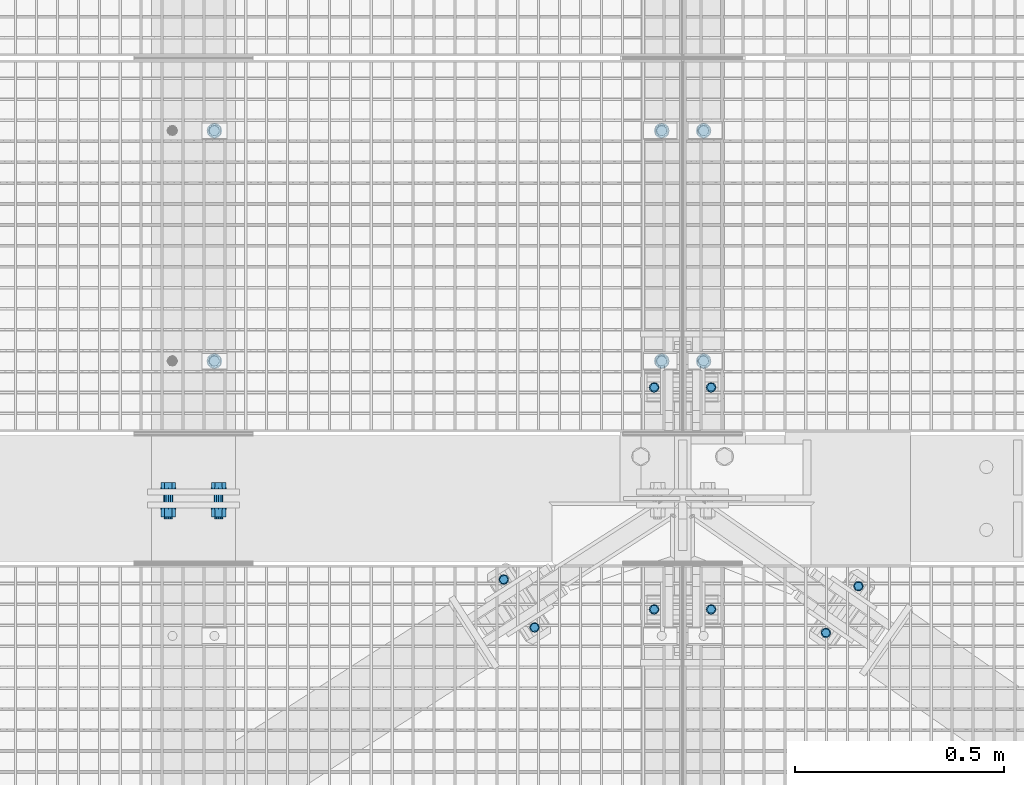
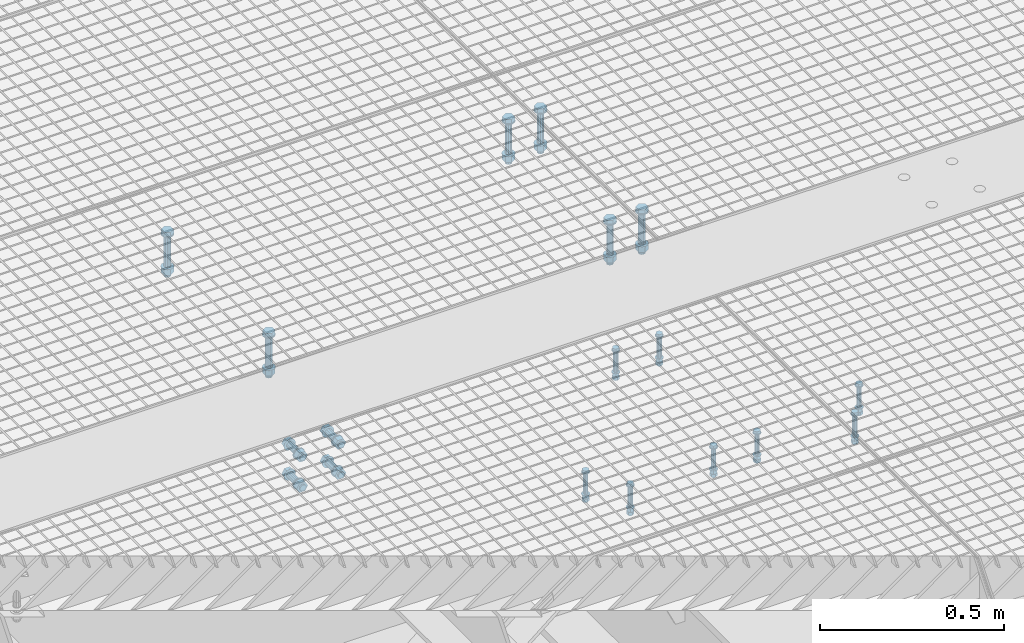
# One storey, part 27 of 1530: 8 mechanical fasteners.
"""IFC2X3 building model written with IfcOpenShell, lengths in millimetres."""

import ifcopenshell
import ifcopenshell.guid

model = None  # the IFC model being written
_history = None  # IfcOwnerHistory: only IFC2X3 demands one
_inside = {}  # id of a spatial element -> (the spatial element, [elements in it])
_under = {}  # id of a project, library or spatial element -> (it, [spatial elements below it])
_declared = {}  # id of a project -> (the project, [libraries it declares])
_typed = {}  # id of a type object -> (the type object, [elements of that type])
_made_of = {}  # id of a material, layer set ... -> (it, [elements and type objects made of it])


def new_model(schema):
    """Start an empty IFC model of exactly this schema.

    Asked for "IFC4X3", IfcOpenShell would pick the latest addendum, in which some entities
    have other attributes; the version numbers below select the first issue.
    IFC2X3 requires an IfcOwnerHistory on every rooted entity: one is made here for all.
    """
    global model, _history
    if schema == "IFC4X3":
        model = ifcopenshell.file(schema_version=(4, 3, 0, 0))
    else:
        model = ifcopenshell.file(schema=schema)
    _inside.clear()
    _under.clear()
    _declared.clear()
    _typed.clear()
    _made_of.clear()
    _history = None
    if model.schema == "IFC2X3":
        org = make("IfcOrganization", Name="unknown")
        user = make(
            "IfcPersonAndOrganization",
            ThePerson=make("IfcPerson", FamilyName="unknown"),
            TheOrganization=org,
        )
        app = make(
            "IfcApplication",
            ApplicationDeveloper=org,
            Version="unknown",
            ApplicationFullName="unknown",
            ApplicationIdentifier="unknown",
        )
        _history = make(
            "IfcOwnerHistory",
            OwningUser=user,
            OwningApplication=app,
            ChangeAction="ADDED",
            CreationDate=0,
        )
    return model


def make(cls, **values):
    """One entity of the class cls with the attributes given. An attribute that is None is left unset."""
    return model.create_entity(
        cls, **{name: value for name, value in values.items() if value is not None}
    )


def rooted(cls, **values):
    """An entity with a GlobalId (a new one), such as an element, a storey or a relation."""
    return make(cls, GlobalId=ifcopenshell.guid.new(), OwnerHistory=_history, **values)


def si_unit(unit_type, name, prefix=None):
    """IfcSIUnit, for example si_unit("LENGTHUNIT", "METRE", prefix="MILLI")."""
    return make("IfcSIUnit", UnitType=unit_type, Prefix=prefix, Name=name)


def assignment(units):
    """IfcUnitAssignment: the units of a project."""
    return None if units is None else make("IfcUnitAssignment", Units=units)


def point(xyz):
    """IfcCartesianPoint."""
    return None if xyz is None else make("IfcCartesianPoint", Coordinates=xyz)


def direction(xyz):
    """IfcDirection."""
    return None if xyz is None else make("IfcDirection", DirectionRatios=xyz)


def frame(location, z_axis=None, x_axis=None):
    """IfcAxis2Placement3D, a coordinate frame: its origin and axes. An axis left out is left unset."""
    return make(
        "IfcAxis2Placement3D",
        Location=point(location),
        Axis=direction(z_axis),
        RefDirection=direction(x_axis),
    )


def origin_with_axes():
    """The frame at (0, 0, 0) with the z axis (0, 0, 1) and the x axis (1, 0, 0) written out."""
    return frame((0.0, 0.0, 0.0), z_axis=(0.0, 0.0, 1.0), x_axis=(1.0, 0.0, 0.0))


def place(relative_to, where):
    """IfcLocalPlacement: puts the frame where relative to a parent placement (None: the world)."""
    return make(
        "IfcLocalPlacement", PlacementRelTo=relative_to, RelativePlacement=where
    )


def context(
    kind, dimensions, precision=None, world=None, true_north=None, identifier=None
):
    """IfcGeometricRepresentationContext, for example the 3D "Model" context."""
    return make(
        "IfcGeometricRepresentationContext",
        ContextIdentifier=identifier,
        ContextType=kind,
        CoordinateSpaceDimension=dimensions,
        Precision=precision,
        WorldCoordinateSystem=world,
        TrueNorth=true_north,
    )


def subcontext(parent, identifier, kind, view, scale=None):
    """IfcGeometricRepresentationSubContext, for example "Body" below "Model"."""
    return make(
        "IfcGeometricRepresentationSubContext",
        ContextIdentifier=identifier,
        ContextType=kind,
        ParentContext=parent,
        TargetScale=scale,
        TargetView=view,
    )


def project(units=None, contexts=None):
    """IfcProject with its units and contexts."""
    return rooted(
        "IfcProject",
        Name="project",
        RepresentationContexts=contexts,
        UnitsInContext=assignment(units),
    )


def spatial(cls, under=None, at=None, **own):
    """A site, building, storey or space (cls), placed at a placement, below another one or the project."""
    s = rooted(cls, ObjectPlacement=at, **own)
    if under is not None:
        _under.setdefault(under.id(), (under, []))[1].append(s)
    return s


def faces_of(points, faces, orient=None, outer=None):
    """IfcFace entities. A face is a list of loops; a loop is a list of indices into points, from 0.

    orient and outer hold one flag for each loop. By default every Orientation is true, the
    first loop of a face is its IfcFaceOuterBound and the others are IfcFaceBound.
    """
    made = []
    for i, loops in enumerate(faces):
        bounds = []
        for j, loop in enumerate(loops):
            is_outer = j == 0 if outer is None else outer[i][j]
            bounds.append(
                make(
                    "IfcFaceOuterBound" if is_outer else "IfcFaceBound",
                    Bound=make("IfcPolyLoop", Polygon=[points[k] for k in loop]),
                    Orientation=True if orient is None else orient[i][j],
                )
            )
        made.append(make("IfcFace", Bounds=bounds))
    return made


def faceted_brep(points, faces, orient=None, outer=None, voids=None):
    """IfcFacetedBrep: a solid bounded by flat faces; with voids (closed shells), ...WithVoids."""
    shared = [point(p) for p in points]
    hull = make("IfcClosedShell", CfsFaces=faces_of(shared, faces, orient, outer))
    if voids is None:
        return make("IfcFacetedBrep", Outer=hull)
    return make(
        "IfcFacetedBrepWithVoids",
        Outer=hull,
        Voids=[
            make(cls, CfsFaces=faces_of(shared, fs, o, b)) for cls, fs, o, b in voids
        ],
    )


def shape(context_of_items, identifier, shape_type, items):
    """IfcShapeRepresentation: the items that make up one representation, for example the "Body"."""
    return make(
        "IfcShapeRepresentation",
        ContextOfItems=context_of_items,
        RepresentationIdentifier=identifier,
        RepresentationType=shape_type,
        Items=items,
    )


def source(mapping_origin, context_of_items, identifier, shape_type, items):
    """IfcRepresentationMap: a shape defined once, which mapped items show again and again."""
    return make(
        "IfcRepresentationMap",
        MappingOrigin=mapping_origin,
        MappedRepresentation=shape(context_of_items, identifier, shape_type, items),
    )


def transform(
    local_origin,
    x_axis=None,
    y_axis=None,
    z_axis=None,
    scale=None,
    scale2=None,
    scale3=None,
    uniform=True,
):
    """IfcCartesianTransformationOperator3D, or its non-uniform kind. x_axis, y_axis, z_axis: its Axis1, 2, 3."""
    if uniform:
        return make(
            "IfcCartesianTransformationOperator3D",
            Axis1=direction(x_axis),
            Axis2=direction(y_axis),
            LocalOrigin=point(local_origin),
            Scale=scale,
            Axis3=direction(z_axis),
        )
    return make(
        "IfcCartesianTransformationOperator3DnonUniform",
        Axis1=direction(x_axis),
        Axis2=direction(y_axis),
        LocalOrigin=point(local_origin),
        Scale=scale,
        Axis3=direction(z_axis),
        Scale2=scale2,
        Scale3=scale3,
    )


def mapped(mapping_source, mapping_target):
    """IfcMappedItem: shows the shape of a source again, moved by a transform."""
    return make(
        "IfcMappedItem", MappingSource=mapping_source, MappingTarget=mapping_target
    )


def material(Name=None, Category=None):
    """IfcMaterial."""
    return make("IfcMaterial", Name=Name, Category=Category)


def made_of(thing, what):
    """Note that an element or type object is made of a material, layer set ...; save() writes the relation."""
    if what is not None:
        _made_of.setdefault(what.id(), (what, []))[1].append(thing)
    return thing


def type_object(cls, material=None, **own):
    """A type object (cls), such as IfcWallType, which elements share."""
    return made_of(rooted(cls, **own), material)


def element(
    cls,
    number,
    at=None,
    inside=None,
    cuts=None,
    type_object=None,
    material=None,
    context=None,
    identifier="Body",
    shape_type=None,
    held_by="IfcProductDefinitionShape",
    body=None,
    shapes=None,
    **own,
):
    """One element of the class cls, such as IfcWall. Its Tag is "e" and its number.

    at: its placement. inside: the storey or other place that contains it. cuts: it is an
    opening in that element (IfcRelVoidsElement). A single representation is given by context,
    identifier, shape_type and body (its items); several are given by shapes. held_by: the class
    of the entity that holds the representations. save() writes the other relations.
    """
    e = rooted(cls, Tag="e%d" % number, ObjectPlacement=at, **own)
    if body is not None:
        shapes = [shape(context, identifier, shape_type, body)]
    if shapes is not None:
        e.Representation = make(held_by, Representations=shapes)
    if inside is not None:
        _inside.setdefault(inside.id(), (inside, []))[1].append(e)
    if cuts is not None:
        rooted(
            "IfcRelVoidsElement", RelatingBuildingElement=cuts, RelatedOpeningElement=e
        )
    if type_object is not None:
        _typed.setdefault(type_object.id(), (type_object, []))[1].append(e)
    return made_of(e, material)


def aggregate(whole, parts):
    """IfcRelAggregates: a whole, such as a stair, and the parts it consists of."""
    return rooted("IfcRelAggregates", RelatingObject=whole, RelatedObjects=parts)


def save(model, path):
    """Write the relations noted so far, then the file.

    IfcRelAggregates (storeys below a building ...), IfcRelContainedInSpatialStructure (elements
    in a storey), IfcRelDefinesByType, IfcRelAssociatesMaterial and IfcRelDeclares: one each for
    every whole, place, type object, material and project.
    """
    for whole, parts in _under.values():
        aggregate(whole, parts)
    for where, things in _inside.values():
        rooted(
            "IfcRelContainedInSpatialStructure",
            RelatedElements=things,
            RelatingStructure=where,
        )
    for kind, things in _typed.values():
        rooted("IfcRelDefinesByType", RelatedObjects=things, RelatingType=kind)
    for what, things in _made_of.values():
        rooted("IfcRelAssociatesMaterial", RelatedObjects=things, RelatingMaterial=what)
    for by, libraries in _declared.values():
        rooted("IfcRelDeclares", RelatingContext=by, RelatedDefinitions=libraries)
    model.write(path)


model = new_model("IFC2X3")

# Units and contexts
model_context = context("Model", 3, precision=1e-05, world=origin_with_axes())
body_context = subcontext(model_context, "Body", "Model", "MODEL_VIEW")
ifc_project = project(units=[si_unit("LENGTHUNIT", "METRE", prefix="MILLI"), si_unit("AREAUNIT", "SQUARE_METRE"), si_unit("VOLUMEUNIT", "CUBIC_METRE"), si_unit("MASSUNIT", "GRAM", prefix="KILO"), si_unit("TIMEUNIT", "SECOND"), si_unit("PLANEANGLEUNIT", "RADIAN"), si_unit("SOLIDANGLEUNIT", "STERADIAN"), si_unit("THERMODYNAMICTEMPERATUREUNIT", "DEGREE_CELSIUS"), si_unit("LUMINOUSINTENSITYUNIT", "LUMEN")], contexts=[model_context])

# Site, building, storey
site_placement = place(None, origin_with_axes())
site = spatial("IfcSite", under=ifc_project, at=site_placement, Name="Brattvåg", CompositionType="ELEMENT")
building_placement = place(site_placement, origin_with_axes())
building = spatial("IfcBuilding", under=site, at=building_placement, Name="Undefined", CompositionType="ELEMENT")
storey_placement = place(building_placement, origin_with_axes())
storey = spatial("IfcBuildingStorey", under=building, at=storey_placement, Name="Undefined", CompositionType="ELEMENT", Elevation=0.0)

# Mechanical fasteners
ifc_material = material(Name="8")
mechanical_fastener_type = type_object("IfcMechanicalFastenerType", Name="Bolt assembly")
shared_shape_1 = source(origin_with_axes(), body_context, "Body", "Brep", [
    faceted_brep([(10.3923048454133, -9.99999999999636, 0.0), (5.19615242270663, -9.99999999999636, 9.0), (-5.19615242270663, -9.99999999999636, 9.0), (-10.3923048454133, -9.99999999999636, 1.27269028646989e-15), (-5.19615242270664, -9.99999999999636, -9.0), (5.19615242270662, -9.99999999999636, -9.0), (5.19615242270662, -2.49999999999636, -9.0), (-5.19615242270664, -2.49999999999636, -9.0), (-10.3923048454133, -2.49999999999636, 1.27269028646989e-15), (-5.19615242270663, -2.49999999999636, 9.0), (5.19615242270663, -2.49999999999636, 9.0), (10.3923048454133, -2.49999999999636, 0.0), (6.0, -2.49999999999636, 0.0), (5.19615242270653, -2.49999999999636, 3.00000000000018), (2.99999999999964, -2.49999999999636, 5.19615242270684), (-6.21801588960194e-13, -2.49999999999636, 6.0), (-3.00000000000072, -2.49999999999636, 5.19615242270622), (-5.19615242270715, -2.49999999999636, 2.9999999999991), (-6.0, -2.49999999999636, -1.24360317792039e-12), (-5.19615242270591, -2.49999999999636, -3.00000000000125), (-2.99999999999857, -2.49999999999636, -5.19615242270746), (1.85874342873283e-12, -2.49999999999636, -6.0), (3.00000000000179, -2.49999999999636, -5.1961524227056), (5.19615242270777, -2.49999999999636, -2.99999999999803), (5.19615242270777, 97.4999999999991, -2.99999999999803), (3.00000000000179, 97.4999999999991, -5.1961524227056), (1.85874342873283e-12, 97.4999999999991, -6.0), (-2.99999999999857, 97.4999999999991, -5.19615242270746), (-5.19615242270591, 97.4999999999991, -3.00000000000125), (-6.0, 97.4999999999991, -1.24360317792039e-12), (-5.19615242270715, 97.4999999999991, 2.9999999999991), (-3.00000000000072, 97.4999999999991, 5.19615242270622), (-6.21801588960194e-13, 97.4999999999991, 6.0), (2.99999999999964, 97.4999999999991, 5.19615242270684), (5.19615242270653, 97.4999999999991, 3.00000000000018), (6.0, 97.4999999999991, 0.0), (12.0, -2.49999999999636, 0.0), (10.3923048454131, -2.49999999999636, 6.00000000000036), (5.99999999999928, -2.49999999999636, 10.3923048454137), (-1.24360317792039e-12, -2.49999999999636, 12.0), (-6.00000000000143, -2.49999999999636, 10.3923048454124), (-10.3923048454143, -2.49999999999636, 5.99999999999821), (-12.0, -2.49999999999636, -2.48720635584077e-12), (-10.3923048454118, -2.49999999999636, -6.00000000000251), (-5.99999999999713, -2.49999999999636, -10.3923048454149), (3.71748685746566e-12, -2.49999999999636, -12.0), (6.00000000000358, -2.49999999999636, -10.3923048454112), (10.3923048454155, -2.49999999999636, -5.99999999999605), (10.3923048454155, 3.63797880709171e-12, -5.99999999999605), (6.00000000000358, 3.63797880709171e-12, -10.3923048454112), (3.71748685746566e-12, 3.63797880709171e-12, -12.0), (-5.99999999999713, 3.63797880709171e-12, -10.3923048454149), (-10.3923048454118, 3.63797880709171e-12, -6.00000000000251), (-12.0, 3.63797880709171e-12, -2.48720635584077e-12), (-10.3923048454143, 3.63797880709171e-12, 5.99999999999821), (-6.00000000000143, 3.63797880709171e-12, 10.3923048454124), (-1.24360317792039e-12, 3.63797880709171e-12, 12.0), (5.99999999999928, 3.63797880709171e-12, 10.3923048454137), (10.3923048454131, 3.63797880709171e-12, 6.00000000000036), (12.0, 3.63797880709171e-12, 0.0), (12.0, 69.9999999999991, 0.0), (10.3923048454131, 69.9999999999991, 6.00000000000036), (5.99999999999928, 69.9999999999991, 10.3923048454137), (-1.24360317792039e-12, 69.9999999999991, 12.0), (-6.00000000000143, 69.9999999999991, 10.3923048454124), (-10.3923048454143, 69.9999999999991, 5.99999999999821), (-12.0, 69.9999999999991, -2.48720635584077e-12), (-10.3923048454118, 69.9999999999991, -6.00000000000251), (-5.99999999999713, 69.9999999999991, -10.3923048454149), (3.71748685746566e-12, 69.9999999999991, -12.0), (6.00000000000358, 69.9999999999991, -10.3923048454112), (10.3923048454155, 69.9999999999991, -5.99999999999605), (10.3923048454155, 72.4999999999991, -5.99999999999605), (6.00000000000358, 72.4999999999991, -10.3923048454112), (3.71748685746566e-12, 72.4999999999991, -12.0), (-5.99999999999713, 72.4999999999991, -10.3923048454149), (-10.3923048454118, 72.4999999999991, -6.00000000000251), (-12.0, 72.4999999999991, -2.48720635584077e-12), (-10.3923048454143, 72.4999999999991, 5.99999999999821), (-6.00000000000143, 72.4999999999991, 10.3923048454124), (-1.24360317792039e-12, 72.4999999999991, 12.0), (5.99999999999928, 72.4999999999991, 10.3923048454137), (10.3923048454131, 72.4999999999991, 6.00000000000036), (12.0, 72.4999999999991, 0.0), (10.3923048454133, 72.4999999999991, 0.0), (5.19615242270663, 72.4999999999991, 9.0), (-5.19615242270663, 72.4999999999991, 9.0), (-10.3923048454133, 72.4999999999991, 1.27269028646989e-15), (-5.19615242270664, 72.4999999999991, -9.0), (5.19615242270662, 72.4999999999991, -9.0), (5.19615242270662, 83.300000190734, -9.0), (-5.19615242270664, 83.300000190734, -9.0), (-10.3923048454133, 83.300000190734, 1.27269028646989e-15), (-5.19615242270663, 83.300000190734, 9.0), (5.19615242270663, 83.300000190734, 9.0), (10.3923048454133, 83.300000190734, 0.0), (9.0, 83.300000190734, 5.19615242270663), (6.36345143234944e-16, 83.300000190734, 10.3923048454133), (-9.0, 83.300000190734, 5.19615242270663), (-9.0, 83.300000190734, -5.19615242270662), (-1.11392563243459e-14, 83.300000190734, -10.3923048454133), (8.99999999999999, 83.300000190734, -5.19615242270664), (8.99999999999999, 94.1000003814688, -5.19615242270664), (-1.11392563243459e-14, 94.1000003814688, -10.3923048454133), (-9.0, 94.1000003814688, -5.19615242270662), (-9.0, 94.1000003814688, 5.19615242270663), (6.36345143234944e-16, 94.1000003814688, 10.3923048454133), (9.0, 94.1000003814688, 5.19615242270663)], [[[0, 1, 2, 3, 4, 5]], [[6, 7, 8, 9, 10, 11]], [[0, 11, 10, 1]], [[1, 10, 9, 2]], [[2, 9, 8, 3]], [[3, 8, 7, 4]], [[4, 7, 6, 5]], [[5, 6, 11, 0]], [[12, 13, 14, 15, 16, 17, 18, 19, 20, 21, 22, 23]], [[24, 25, 26, 27, 28, 29, 30, 31, 32, 33, 34, 35]], [[12, 35, 34, 13]], [[13, 34, 33, 14]], [[14, 33, 32, 15]], [[15, 32, 31, 16]], [[16, 31, 30, 17]], [[17, 30, 29, 18]], [[18, 29, 28, 19]], [[19, 28, 27, 20]], [[20, 27, 26, 21]], [[21, 26, 25, 22]], [[22, 25, 24, 23]], [[23, 24, 35, 12]], [[36, 37, 38, 39, 40, 41, 42, 43, 44, 45, 46, 47]], [[48, 49, 50, 51, 52, 53, 54, 55, 56, 57, 58, 59]], [[36, 59, 58, 37]], [[37, 58, 57, 38]], [[38, 57, 56, 39]], [[39, 56, 55, 40]], [[40, 55, 54, 41]], [[41, 54, 53, 42]], [[42, 53, 52, 43]], [[43, 52, 51, 44]], [[44, 51, 50, 45]], [[45, 50, 49, 46]], [[46, 49, 48, 47]], [[47, 48, 59, 36]], [[60, 61, 62, 63, 64, 65, 66, 67, 68, 69, 70, 71]], [[72, 73, 74, 75, 76, 77, 78, 79, 80, 81, 82, 83]], [[60, 83, 82, 61]], [[61, 82, 81, 62]], [[62, 81, 80, 63]], [[63, 80, 79, 64]], [[64, 79, 78, 65]], [[65, 78, 77, 66]], [[66, 77, 76, 67]], [[67, 76, 75, 68]], [[68, 75, 74, 69]], [[69, 74, 73, 70]], [[70, 73, 72, 71]], [[71, 72, 83, 60]], [[84, 85, 86, 87, 88, 89]], [[90, 91, 92, 93, 94, 95]], [[84, 95, 94, 85]], [[85, 94, 93, 86]], [[86, 93, 92, 87]], [[87, 92, 91, 88]], [[88, 91, 90, 89]], [[89, 90, 95, 84]], [[96, 97, 98, 99, 100, 101]], [[102, 103, 104, 105, 106, 107]], [[96, 107, 106, 97]], [[97, 106, 105, 98]], [[98, 105, 104, 99]], [[99, 104, 103, 100]], [[100, 103, 102, 101]], [[101, 102, 107, 96]]]),
    faceted_brep([(7.0, -9.09494701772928e-13, 0.0), (6.06217782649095, -9.09494701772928e-13, 3.50000000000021), (3.49999999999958, -9.09494701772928e-13, 6.06217782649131), (-7.25435187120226e-13, -9.09494701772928e-13, 7.0), (-3.50000000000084, -9.09494701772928e-13, 6.06217782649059), (-6.06217782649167, -9.09494701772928e-13, 3.49999999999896), (-7.0, -9.09494701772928e-13, -1.45087037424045e-12), (-6.06217782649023, -9.09494701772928e-13, -3.50000000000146), (-3.49999999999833, -9.09494701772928e-13, -6.06217782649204), (2.1685340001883e-12, -9.09494701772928e-13, -7.0), (3.50000000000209, -9.09494701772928e-13, -6.06217782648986), (6.0621778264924, -9.09494701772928e-13, -3.4999999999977), (6.0621778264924, 70.0999999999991, -3.4999999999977), (3.50000000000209, 70.0999999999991, -6.06217782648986), (2.1685340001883e-12, 70.0999999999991, -7.0), (-3.49999999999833, 70.0999999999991, -6.06217782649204), (-6.06217782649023, 70.0999999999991, -3.50000000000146), (-7.0, 70.0999999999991, -1.45087037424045e-12), (-6.06217782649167, 70.0999999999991, 3.49999999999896), (-3.50000000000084, 70.0999999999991, 6.06217782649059), (-7.25435187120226e-13, 70.0999999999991, 7.0), (3.49999999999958, 70.0999999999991, 6.06217782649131), (6.06217782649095, 70.0999999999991, 3.50000000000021), (7.0, 70.0999999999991, 0.0)], [[[0, 1, 2, 3, 4, 5, 6, 7, 8, 9, 10, 11]], [[12, 13, 14, 15, 16, 17, 18, 19, 20, 21, 22, 23]], [[0, 23, 22, 1]], [[1, 22, 21, 2]], [[2, 21, 20, 3]], [[3, 20, 19, 4]], [[4, 19, 18, 5]], [[5, 18, 17, 6]], [[6, 17, 16, 7]], [[7, 16, 15, 8]], [[8, 15, 14, 9]], [[9, 14, 13, 10]], [[10, 13, 12, 11]], [[11, 12, 23, 0]]]),
])
for number, where, z_axis, x_axis, name in (
    (1, (11822.8252213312, 2806.50584660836, -410.000000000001), (0.841459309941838, 0.540320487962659, 0.0), (0.540320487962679, -0.841459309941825, 0.0), "Bolt assembly"),
    (2, (12181.9511285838, 2735.0, -410.000000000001), (0.0, 1.0, 0.0), (1.0, 0.0, 0.0), "Bolt assembly"),
    (3, (12317.9488714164, 3265.0, -410.000000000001), (0.0, -1.0, 0.0), (-1.0, 1.99999855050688e-09, 0.0), "Bolt assembly"),
    (4, (12591.9306926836, 2679.03955792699, -410.000000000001), (-0.820625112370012, 0.571466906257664, 0.0), (0.571466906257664, 0.820625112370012, 0.0), "Bolt assembly"),
):
    element("IfcMechanicalFastener", number, at=place(storey_placement, frame(where, z_axis=z_axis, x_axis=x_axis)), inside=storey, type_object=mechanical_fastener_type, material=ifc_material, Name=name, NominalDiameter=12.0, NominalLength=100.0, context=body_context, shape_type="MappedRepresentation", body=[
        mapped(shared_shape_1, transform((0.0, 0.0, 0.0))),
        mapped(shared_shape_1, transform((136.0, 0.0, 0.0))),
    ])
shared_shape_2 = source(origin_with_axes(), body_context, "Body", "Brep", [
    faceted_brep([(17.3205080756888, -10.5, 0.0), (8.66025403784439, -10.5, 15.0), (-8.66025403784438, -10.5, 15.0), (-17.3205080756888, -10.5, 2.12115047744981e-15), (-8.66025403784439, -10.5, -15.0), (8.66025403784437, -10.5, -15.0), (8.66025403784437, 2.0, -15.0), (-8.66025403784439, 2.0, -15.0), (-17.3205080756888, 2.0, 2.12115047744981e-15), (-8.66025403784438, 2.0, 15.0), (8.66025403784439, 2.0, 15.0), (17.3205080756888, 2.0, 0.0), (10.0, 2.0, 0.0), (8.66025403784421, 2.0, 5.0000000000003), (4.9999999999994, 2.0, 8.66025403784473), (-1.03633598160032e-12, 2.0, 10.0), (-5.00000000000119, 2.0, 8.6602540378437), (-8.66025403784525, 2.0, 4.99999999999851), (-10.0, 2.0, -2.07267196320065e-12), (-8.66025403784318, 2.0, -5.00000000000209), (-4.99999999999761, 2.0, -8.66025403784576), (3.09790571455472e-12, 2.0, -10.0), (5.00000000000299, 2.0, -8.66025403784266), (8.66025403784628, 2.0, -4.99999999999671), (8.66025403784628, 142.0, -4.99999999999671), (5.00000000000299, 142.0, -8.66025403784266), (3.09790571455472e-12, 142.0, -10.0), (-4.99999999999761, 142.0, -8.66025403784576), (-8.66025403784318, 142.0, -5.00000000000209), (-10.0, 142.0, -2.07267196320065e-12), (-8.66025403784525, 142.0, 4.99999999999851), (-5.00000000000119, 142.0, 8.6602540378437), (-1.03633598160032e-12, 142.0, 10.0), (4.9999999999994, 142.0, 8.66025403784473), (8.66025403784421, 142.0, 5.0000000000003), (10.0, 142.0, 0.0), (18.5, 2.0, 0.0), (16.0214699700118, 2.0, 9.25000000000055), (9.2499999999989, 2.0, 16.0214699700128), (-1.9172215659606e-12, 2.0, 18.5), (-9.25000000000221, 2.0, 16.0214699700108), (-16.0214699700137, 2.0, 9.24999999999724), (-18.5, 2.0, -3.83444313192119e-12), (-16.0214699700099, 2.0, -9.25000000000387), (-9.24999999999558, 2.0, -16.0214699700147), (5.73112557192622e-12, 2.0, -18.5), (9.25000000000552, 2.0, -16.0214699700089), (16.0214699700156, 2.0, -9.24999999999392), (16.0214699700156, 5.0, -9.24999999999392), (9.25000000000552, 5.0, -16.0214699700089), (5.73112557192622e-12, 5.0, -18.5), (-9.24999999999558, 5.0, -16.0214699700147), (-16.0214699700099, 5.0, -9.25000000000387), (-18.5, 5.0, -3.83444313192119e-12), (-16.0214699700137, 5.0, 9.24999999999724), (-9.25000000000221, 5.0, 16.0214699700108), (-1.9172215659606e-12, 5.0, 18.5), (9.2499999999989, 5.0, 16.0214699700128), (16.0214699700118, 5.0, 9.25000000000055), (18.5, 5.0, 0.0), (18.5, 109.998931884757, 0.0), (16.0214699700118, 109.998931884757, 9.25000000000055), (9.2499999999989, 109.998931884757, 16.0214699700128), (-1.9172215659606e-12, 109.998931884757, 18.5), (-9.25000000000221, 109.998931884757, 16.0214699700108), (-16.0214699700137, 109.998931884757, 9.24999999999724), (-18.5, 109.998931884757, -3.83444313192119e-12), (-16.0214699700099, 109.998931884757, -9.25000000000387), (-9.24999999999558, 109.998931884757, -16.0214699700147), (5.73112557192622e-12, 109.998931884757, -18.5), (9.25000000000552, 109.998931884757, -16.0214699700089), (16.0214699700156, 109.998931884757, -9.24999999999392), (16.0214699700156, 112.998931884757, -9.24999999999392), (9.25000000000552, 112.998931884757, -16.0214699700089), (5.73112557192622e-12, 112.998931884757, -18.5), (-9.24999999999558, 112.998931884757, -16.0214699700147), (-16.0214699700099, 112.998931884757, -9.25000000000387), (-18.5, 112.998931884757, -3.83444313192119e-12), (-16.0214699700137, 112.998931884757, 9.24999999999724), (-9.25000000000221, 112.998931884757, 16.0214699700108), (-1.9172215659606e-12, 112.998931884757, 18.5), (9.2499999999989, 112.998931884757, 16.0214699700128), (16.0214699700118, 112.998931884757, 9.25000000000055), (18.5, 112.998931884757, 0.0), (17.3205080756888, 112.998931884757, 0.0), (8.66025403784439, 112.998931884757, 15.0), (-8.66025403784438, 112.998931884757, 15.0), (-17.3205080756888, 112.998931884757, 2.12115047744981e-15), (-8.66025403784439, 112.998931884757, -15.0), (8.66025403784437, 112.998931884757, -15.0), (8.66025403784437, 130.998931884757, -15.0), (-8.66025403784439, 130.998931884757, -15.0), (-17.3205080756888, 130.998931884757, 2.12115047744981e-15), (-8.66025403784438, 130.998931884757, 15.0), (8.66025403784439, 130.998931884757, 15.0), (17.3205080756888, 130.998931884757, 0.0)], [[[0, 1, 2, 3, 4, 5]], [[6, 7, 8, 9, 10, 11]], [[0, 11, 10, 1]], [[1, 10, 9, 2]], [[2, 9, 8, 3]], [[3, 8, 7, 4]], [[4, 7, 6, 5]], [[5, 6, 11, 0]], [[12, 13, 14, 15, 16, 17, 18, 19, 20, 21, 22, 23]], [[24, 25, 26, 27, 28, 29, 30, 31, 32, 33, 34, 35]], [[12, 35, 34, 13]], [[13, 34, 33, 14]], [[14, 33, 32, 15]], [[15, 32, 31, 16]], [[16, 31, 30, 17]], [[17, 30, 29, 18]], [[18, 29, 28, 19]], [[19, 28, 27, 20]], [[20, 27, 26, 21]], [[21, 26, 25, 22]], [[22, 25, 24, 23]], [[23, 24, 35, 12]], [[36, 37, 38, 39, 40, 41, 42, 43, 44, 45, 46, 47]], [[48, 49, 50, 51, 52, 53, 54, 55, 56, 57, 58, 59]], [[36, 59, 58, 37]], [[37, 58, 57, 38]], [[38, 57, 56, 39]], [[39, 56, 55, 40]], [[40, 55, 54, 41]], [[41, 54, 53, 42]], [[42, 53, 52, 43]], [[43, 52, 51, 44]], [[44, 51, 50, 45]], [[45, 50, 49, 46]], [[46, 49, 48, 47]], [[47, 48, 59, 36]], [[60, 61, 62, 63, 64, 65, 66, 67, 68, 69, 70, 71]], [[72, 73, 74, 75, 76, 77, 78, 79, 80, 81, 82, 83]], [[60, 83, 82, 61]], [[61, 82, 81, 62]], [[62, 81, 80, 63]], [[63, 80, 79, 64]], [[64, 79, 78, 65]], [[65, 78, 77, 66]], [[66, 77, 76, 67]], [[67, 76, 75, 68]], [[68, 75, 74, 69]], [[69, 74, 73, 70]], [[70, 73, 72, 71]], [[71, 72, 83, 60]], [[84, 85, 86, 87, 88, 89]], [[90, 91, 92, 93, 94, 95]], [[84, 95, 94, 85]], [[85, 94, 93, 86]], [[86, 93, 92, 87]], [[87, 92, 91, 88]], [[88, 91, 90, 89]], [[89, 90, 95, 84]]]),
])
for number, where, z_axis, x_axis, name in (
    (5, (12300.0047793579, 3327.91931152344, -25.0), (-1.0, 1.99999855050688e-09, 0.0), (0.0, 1.0, 0.0), "Bolt assembly"),
    (6, (12200.0148773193, 3327.9204864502, -25.0), (-1.0, 1.99999855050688e-09, 0.0), (0.0, 1.0, 0.0), "Bolt assembly"),
    (7, (11132.0119254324, 3327.99, -25.0), (-1.0, 1.99999855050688e-09, 0.0), (0.0, 1.0, 0.0), "Bolt assembly"),
):
    element("IfcMechanicalFastener", number, at=place(storey_placement, frame(where, z_axis=z_axis, x_axis=x_axis)), inside=storey, type_object=mechanical_fastener_type, material=ifc_material, Name=name, NominalDiameter=20.0, NominalLength=140.0, context=body_context, shape_type="MappedRepresentation", body=[
        mapped(shared_shape_2, transform((0.0, 0.0, 0.0))),
        mapped(shared_shape_2, transform((549.999999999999, 0.0, 0.0))),
    ])
shared_shape_3 = source(origin_with_axes(), body_context, "Body", "Brep", [
    faceted_brep([(17.3205080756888, -15.5000000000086, 0.0), (8.66025403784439, -15.5000000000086, 15.0), (-8.66025403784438, -15.5000000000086, 15.0), (-17.3205080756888, -15.5000000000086, 2.12115047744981e-15), (-8.66025403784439, -15.5000000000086, -15.0), (8.66025403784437, -15.5000000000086, -15.0), (8.66025403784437, -3.00000000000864, -15.0), (-8.66025403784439, -3.00000000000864, -15.0), (-17.3205080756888, -3.00000000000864, 2.12115047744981e-15), (-8.66025403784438, -3.00000000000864, 15.0), (8.66025403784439, -3.00000000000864, 15.0), (17.3205080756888, -3.00000000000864, 0.0), (10.0, -3.00000000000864, 0.0), (8.66025403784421, -3.00000000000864, 5.0000000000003), (4.9999999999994, -3.00000000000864, 8.66025403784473), (-1.03633598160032e-12, -3.00000000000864, 10.0), (-5.00000000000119, -3.00000000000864, 8.6602540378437), (-8.66025403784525, -3.00000000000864, 4.99999999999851), (-10.0, -3.00000000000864, -2.07267196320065e-12), (-8.66025403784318, -3.00000000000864, -5.00000000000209), (-4.99999999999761, -3.00000000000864, -8.66025403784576), (3.09790571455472e-12, -3.00000000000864, -10.0), (5.00000000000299, -3.00000000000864, -8.66025403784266), (8.66025403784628, -3.00000000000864, -4.99999999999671), (8.66025403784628, 72.0, -4.99999999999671), (5.00000000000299, 72.0, -8.66025403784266), (3.09790571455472e-12, 72.0, -10.0), (-4.99999999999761, 72.0, -8.66025403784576), (-8.66025403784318, 72.0, -5.00000000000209), (-10.0, 72.0, -2.07267196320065e-12), (-8.66025403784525, 72.0, 4.99999999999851), (-5.00000000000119, 72.0, 8.6602540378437), (-1.03633598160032e-12, 72.0, 10.0), (4.9999999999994, 72.0, 8.66025403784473), (8.66025403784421, 72.0, 5.0000000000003), (10.0, 72.0, 0.0), (18.5, -3.00000000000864, 0.0), (16.0214699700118, -3.00000000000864, 9.25000000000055), (9.2499999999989, -3.00000000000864, 16.0214699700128), (-1.9172215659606e-12, -3.00000000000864, 18.5), (-9.25000000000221, -3.00000000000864, 16.0214699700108), (-16.0214699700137, -3.00000000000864, 9.24999999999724), (-18.5, -3.00000000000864, -3.83444313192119e-12), (-16.0214699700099, -3.00000000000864, -9.25000000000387), (-9.24999999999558, -3.00000000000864, -16.0214699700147), (5.73112557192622e-12, -3.00000000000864, -18.5), (9.25000000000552, -3.00000000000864, -16.0214699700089), (16.0214699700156, -3.00000000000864, -9.24999999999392), (16.0214699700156, -8.64019966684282e-12, -9.24999999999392), (9.25000000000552, -8.64019966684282e-12, -16.0214699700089), (5.73112557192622e-12, -8.64019966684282e-12, -18.5), (-9.24999999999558, -8.64019966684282e-12, -16.0214699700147), (-16.0214699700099, -8.64019966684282e-12, -9.25000000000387), (-18.5, -8.64019966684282e-12, -3.83444313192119e-12), (-16.0214699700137, -8.64019966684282e-12, 9.24999999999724), (-9.25000000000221, -8.64019966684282e-12, 16.0214699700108), (-1.9172215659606e-12, -8.64019966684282e-12, 18.5), (9.2499999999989, -8.64019966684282e-12, 16.0214699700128), (16.0214699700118, -8.64019966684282e-12, 9.25000000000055), (18.5, -8.64019966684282e-12, 0.0), (18.5, 46.000061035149, 0.0), (16.0214699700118, 46.000061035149, 9.25000000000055), (9.2499999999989, 46.000061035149, 16.0214699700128), (-1.9172215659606e-12, 46.000061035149, 18.5), (-9.25000000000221, 46.000061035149, 16.0214699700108), (-16.0214699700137, 46.000061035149, 9.24999999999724), (-18.5, 46.000061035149, -3.83444313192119e-12), (-16.0214699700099, 46.000061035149, -9.25000000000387), (-9.24999999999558, 46.000061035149, -16.0214699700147), (5.73112557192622e-12, 46.000061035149, -18.5), (9.25000000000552, 46.000061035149, -16.0214699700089), (16.0214699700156, 46.000061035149, -9.24999999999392), (16.0214699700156, 49.000061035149, -9.24999999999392), (9.25000000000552, 49.000061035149, -16.0214699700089), (5.73112557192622e-12, 49.000061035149, -18.5), (-9.24999999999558, 49.000061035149, -16.0214699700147), (-16.0214699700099, 49.000061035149, -9.25000000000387), (-18.5, 49.000061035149, -3.83444313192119e-12), (-16.0214699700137, 49.000061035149, 9.24999999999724), (-9.25000000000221, 49.000061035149, 16.0214699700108), (-1.9172215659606e-12, 49.000061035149, 18.5), (9.2499999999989, 49.000061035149, 16.0214699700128), (16.0214699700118, 49.000061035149, 9.25000000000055), (18.5, 49.000061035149, 0.0), (17.3205080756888, 49.000061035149, 0.0), (8.66025403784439, 49.000061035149, 15.0), (-8.66025403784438, 49.000061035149, 15.0), (-17.3205080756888, 49.000061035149, 2.12115047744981e-15), (-8.66025403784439, 49.000061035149, -15.0), (8.66025403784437, 49.000061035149, -15.0), (8.66025403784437, 67.000061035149, -15.0), (-8.66025403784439, 67.000061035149, -15.0), (-17.3205080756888, 67.000061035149, 2.12115047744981e-15), (-8.66025403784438, 67.000061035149, 15.0), (8.66025403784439, 67.000061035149, 15.0), (17.3205080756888, 67.000061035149, 0.0)], [[[0, 1, 2, 3, 4, 5]], [[6, 7, 8, 9, 10, 11]], [[0, 11, 10, 1]], [[1, 10, 9, 2]], [[2, 9, 8, 3]], [[3, 8, 7, 4]], [[4, 7, 6, 5]], [[5, 6, 11, 0]], [[12, 13, 14, 15, 16, 17, 18, 19, 20, 21, 22, 23]], [[24, 25, 26, 27, 28, 29, 30, 31, 32, 33, 34, 35]], [[12, 35, 34, 13]], [[13, 34, 33, 14]], [[14, 33, 32, 15]], [[15, 32, 31, 16]], [[16, 31, 30, 17]], [[17, 30, 29, 18]], [[18, 29, 28, 19]], [[19, 28, 27, 20]], [[20, 27, 26, 21]], [[21, 26, 25, 22]], [[22, 25, 24, 23]], [[23, 24, 35, 12]], [[36, 37, 38, 39, 40, 41, 42, 43, 44, 45, 46, 47]], [[48, 49, 50, 51, 52, 53, 54, 55, 56, 57, 58, 59]], [[36, 59, 58, 37]], [[37, 58, 57, 38]], [[38, 57, 56, 39]], [[39, 56, 55, 40]], [[40, 55, 54, 41]], [[41, 54, 53, 42]], [[42, 53, 52, 43]], [[43, 52, 51, 44]], [[44, 51, 50, 45]], [[45, 50, 49, 46]], [[46, 49, 48, 47]], [[47, 48, 59, 36]], [[60, 61, 62, 63, 64, 65, 66, 67, 68, 69, 70, 71]], [[72, 73, 74, 75, 76, 77, 78, 79, 80, 81, 82, 83]], [[60, 83, 82, 61]], [[61, 82, 81, 62]], [[62, 81, 80, 63]], [[63, 80, 79, 64]], [[64, 79, 78, 65]], [[65, 78, 77, 66]], [[66, 77, 76, 67]], [[67, 76, 75, 68]], [[68, 75, 74, 69]], [[69, 74, 73, 70]], [[70, 73, 72, 71]], [[71, 72, 83, 60]], [[84, 85, 86, 87, 88, 89]], [[90, 91, 92, 93, 94, 95]], [[84, 95, 94, 85]], [[85, 94, 93, 86]], [[86, 93, 92, 87]], [[87, 92, 91, 88]], [[88, 91, 90, 89]], [[89, 90, 95, 84]]]),
    faceted_brep([(11.0, 0.1, 0.0), (9.52627944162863, 0.1, 5.50000000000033), (5.49999999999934, 0.1, 9.5262794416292), (-1.13996957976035e-12, 0.1, 11.0), (-5.50000000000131, 0.1, 9.52627944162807), (-9.52627944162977, 0.1, 5.49999999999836), (-11.0, 0.1, -2.27993915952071e-12), (-9.5262794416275, 0.1, -5.5000000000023), (-5.49999999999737, 0.1, -9.52627944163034), (3.40769628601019e-12, 0.1, -11.0), (5.50000000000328, 0.1, -9.52627944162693), (9.52627944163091, 0.1, -5.49999999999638), (9.52627944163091, 15.1, -5.49999999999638), (5.50000000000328, 15.1, -9.52627944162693), (3.40769628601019e-12, 15.1, -11.0), (-5.49999999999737, 15.1, -9.52627944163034), (-9.5262794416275, 15.1, -5.5000000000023), (-11.0, 15.1, -2.27993915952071e-12), (-9.52627944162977, 15.1, 5.49999999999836), (-5.50000000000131, 15.1, 9.52627944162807), (-1.13996957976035e-12, 15.1, 11.0), (5.49999999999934, 15.1, 9.5262794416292), (9.52627944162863, 15.1, 5.50000000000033), (11.0, 15.1, 0.0), (11.0, 15.0015563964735, 0.0), (9.52627944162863, 15.0015563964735, 5.50000000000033), (5.49999999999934, 15.0015563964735, 9.5262794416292), (-1.13996957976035e-12, 15.0015563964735, 11.0), (-5.50000000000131, 15.0015563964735, 9.52627944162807), (-9.52627944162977, 15.0015563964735, 5.49999999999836), (-11.0, 15.0015563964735, -2.27993915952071e-12), (-9.5262794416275, 15.0015563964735, -5.5000000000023), (-5.49999999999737, 15.0015563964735, -9.52627944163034), (3.40769628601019e-12, 15.0015563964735, -11.0), (5.50000000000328, 15.0015563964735, -9.52627944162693), (9.52627944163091, 15.0015563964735, -5.49999999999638), (9.52627944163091, 31.0015563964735, -5.49999999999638), (5.50000000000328, 31.0015563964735, -9.52627944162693), (3.40769628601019e-12, 31.0015563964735, -11.0), (-5.49999999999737, 31.0015563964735, -9.52627944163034), (-9.5262794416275, 31.0015563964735, -5.5000000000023), (-11.0, 31.0015563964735, -2.27993915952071e-12), (-9.52627944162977, 31.0015563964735, 5.49999999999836), (-5.50000000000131, 31.0015563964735, 9.52627944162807), (-1.13996957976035e-12, 31.0015563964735, 11.0), (5.49999999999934, 31.0015563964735, 9.5262794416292), (9.52627944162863, 31.0015563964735, 5.50000000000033), (11.0, 31.0015563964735, 0.0), (11.0, 30.900061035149, 0.0), (9.52627944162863, 30.900061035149, 5.50000000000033), (5.49999999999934, 30.900061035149, 9.5262794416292), (-1.13996957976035e-12, 30.900061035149, 11.0), (-5.50000000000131, 30.900061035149, 9.52627944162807), (-9.52627944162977, 30.900061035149, 5.49999999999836), (-11.0, 30.900061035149, -2.27993915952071e-12), (-9.5262794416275, 30.900061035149, -5.5000000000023), (-5.49999999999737, 30.900061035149, -9.52627944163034), (3.40769628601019e-12, 30.900061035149, -11.0), (5.50000000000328, 30.900061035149, -9.52627944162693), (9.52627944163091, 30.900061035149, -5.49999999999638), (9.52627944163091, 46.000061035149, -5.49999999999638), (5.50000000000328, 46.000061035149, -9.52627944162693), (3.40769628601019e-12, 46.000061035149, -11.0), (-5.49999999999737, 46.000061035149, -9.52627944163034), (-9.5262794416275, 46.000061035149, -5.5000000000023), (-11.0, 46.000061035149, -2.27993915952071e-12), (-9.52627944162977, 46.000061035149, 5.49999999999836), (-5.50000000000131, 46.000061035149, 9.52627944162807), (-1.13996957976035e-12, 46.000061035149, 11.0), (5.49999999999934, 46.000061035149, 9.5262794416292), (9.52627944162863, 46.000061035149, 5.50000000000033), (11.0, 46.000061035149, 0.0)], [[[0, 1, 2, 3, 4, 5, 6, 7, 8, 9, 10, 11]], [[12, 13, 14, 15, 16, 17, 18, 19, 20, 21, 22, 23]], [[0, 23, 22, 1]], [[1, 22, 21, 2]], [[2, 21, 20, 3]], [[3, 20, 19, 4]], [[4, 19, 18, 5]], [[5, 18, 17, 6]], [[6, 17, 16, 7]], [[7, 16, 15, 8]], [[8, 15, 14, 9]], [[9, 14, 13, 10]], [[10, 13, 12, 11]], [[11, 12, 23, 0]], [[24, 25, 26, 27, 28, 29, 30, 31, 32, 33, 34, 35]], [[36, 37, 38, 39, 40, 41, 42, 43, 44, 45, 46, 47]], [[24, 47, 46, 25]], [[25, 46, 45, 26]], [[26, 45, 44, 27]], [[27, 44, 43, 28]], [[28, 43, 42, 29]], [[29, 42, 41, 30]], [[30, 41, 40, 31]], [[31, 40, 39, 32]], [[32, 39, 38, 33]], [[33, 38, 37, 34]], [[34, 37, 36, 35]], [[35, 36, 47, 24]], [[48, 49, 50, 51, 52, 53, 54, 55, 56, 57, 58, 59]], [[60, 61, 62, 63, 64, 65, 66, 67, 68, 69, 70, 71]], [[48, 71, 70, 49]], [[49, 70, 69, 50]], [[50, 69, 68, 51]], [[51, 68, 67, 52]], [[52, 67, 66, 53]], [[53, 66, 65, 54]], [[54, 65, 64, 55]], [[55, 64, 63, 56]], [[56, 63, 62, 57]], [[57, 62, 61, 58]], [[58, 61, 60, 59]], [[59, 60, 71, 48]]]),
])
mechanical_fastener_placement = place(storey_placement, frame((11142.0019683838, 3023.00155639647, -219.998836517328), z_axis=(0.0, 0.0, 1.0), x_axis=(-1.0, 1.99999855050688e-09, 0.0)))
element("IfcMechanicalFastener", 8, at=mechanical_fastener_placement, inside=storey, type_object=mechanical_fastener_type, material=ifc_material, Name="Bolt assembly", NominalDiameter=20.0, NominalLength=75.0, context=body_context, shape_type="MappedRepresentation", body=[
    mapped(shared_shape_3, transform((0.0, 0.0, -50.0))),
    mapped(shared_shape_3, transform((120.0, 0.0, -50.0))),
    mapped(shared_shape_3, transform((0.0, 0.0, 50.0))),
    mapped(shared_shape_3, transform((120.0, 0.0, 50.0))),
])

save(model, "model.ifc")
